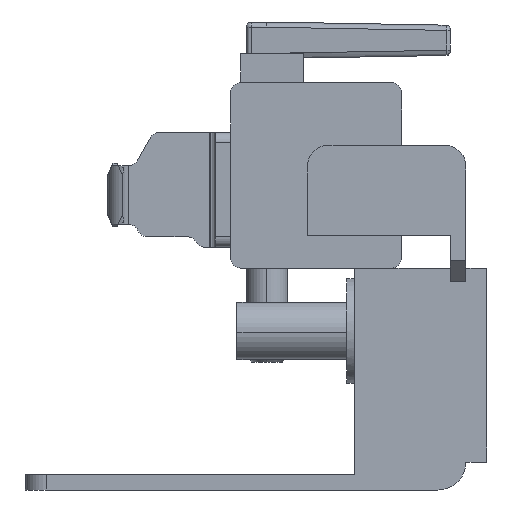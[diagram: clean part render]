
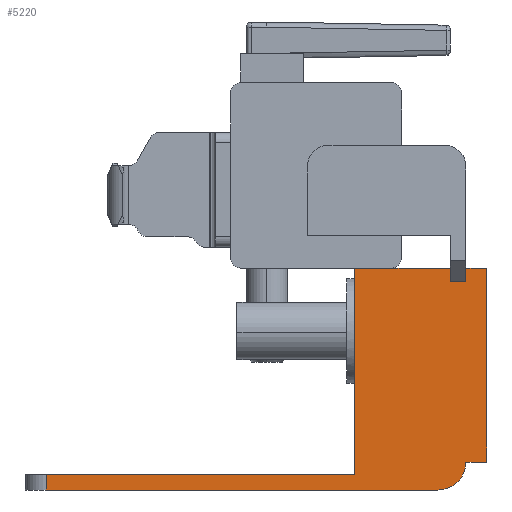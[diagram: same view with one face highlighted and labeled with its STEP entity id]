
A CAD part, left-side view. The second image highlights one B-rep face of the part: STEP entity #5220.
In plain terms, the highlighted planar face has unit normal (-1, 0, 0).
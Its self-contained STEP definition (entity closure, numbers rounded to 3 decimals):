
#61 = DIRECTION ( 'NONE',  ( 0., 0., 1. ) ) ;
#251 = VERTEX_POINT ( 'NONE', #4713 ) ;
#360 = ORIENTED_EDGE ( 'NONE', *, *, #5203, .F. ) ;
#439 = DIRECTION ( 'NONE',  ( 0., 1., 0. ) ) ;
#444 = EDGE_CURVE ( 'NONE', #1513, #1932, #4901, .T. ) ;
#476 = DIRECTION ( 'NONE',  ( 1., 0., 0. ) ) ;
#508 = ORIENTED_EDGE ( 'NONE', *, *, #3993, .T. ) ;
#529 = CARTESIAN_POINT ( 'NONE',  ( -291., -28.333, 40.749 ) ) ;
#570 = EDGE_CURVE ( 'NONE', #4776, #1932, #4447, .T. ) ;
#590 = CARTESIAN_POINT ( 'NONE',  ( -291., -17.713, 40.749 ) ) ;
#592 = CARTESIAN_POINT ( 'NONE',  ( -291., -26.863, 40.749 ) ) ;
#756 = VECTOR ( 'NONE', #815, 1000. ) ;
#815 = DIRECTION ( 'NONE',  ( 0., 0., -1. ) ) ;
#833 = CARTESIAN_POINT ( 'NONE',  ( -291., -17.713, 40.749 ) ) ;
#843 = ORIENTED_EDGE ( 'NONE', *, *, #444, .T. ) ;
#927 = DIRECTION ( 'NONE',  ( 0., 1., 0. ) ) ;
#1007 = EDGE_CURVE ( 'NONE', #2484, #2375, #4440, .T. ) ;
#1064 = EDGE_CURVE ( 'NONE', #4776, #5244, #4034, .T. ) ;
#1153 = ORIENTED_EDGE ( 'NONE', *, *, #1064, .T. ) ;
#1171 = CARTESIAN_POINT ( 'NONE',  ( -291., 14.667, 19.549 ) ) ;
#1182 = FACE_OUTER_BOUND ( 'NONE', #3840, .T. ) ;
#1229 = EDGE_CURVE ( 'NONE', #2517, #251, #4365, .T. ) ;
#1276 = CARTESIAN_POINT ( 'NONE',  ( -291., -29.063, 21.019 ) ) ;
#1328 = VECTOR ( 'NONE', #3940, 1000. ) ;
#1397 = VECTOR ( 'NONE', #4154, 1000. ) ;
#1470 = VERTEX_POINT ( 'NONE', #5085 ) ;
#1513 = VERTEX_POINT ( 'NONE', #3197 ) ;
#1531 = DIRECTION ( 'NONE',  ( 0., 0., 1. ) ) ;
#1550 = VECTOR ( 'NONE', #1713, 1000. ) ;
#1564 = VERTEX_POINT ( 'NONE', #4915 ) ;
#1596 = AXIS2_PLACEMENT_3D ( 'NONE', #2214, #3492, #927 ) ;
#1633 = VECTOR ( 'NONE', #1531, 1000. ) ;
#1713 = DIRECTION ( 'NONE',  ( 0., 1., 0. ) ) ;
#1856 = DIRECTION ( 'NONE',  ( 0., 0., 1. ) ) ;
#1873 = CARTESIAN_POINT ( 'NONE',  ( -291., 11.767, 21.319 ) ) ;
#1932 = VERTEX_POINT ( 'NONE', #592 ) ;
#1942 = EDGE_CURVE ( 'NONE', #2484, #2237, #4559, .T. ) ;
#1976 = CARTESIAN_POINT ( 'NONE',  ( -291., -28.333, 22.219 ) ) ;
#2040 = CARTESIAN_POINT ( 'NONE',  ( -291., -30.333, 22.219 ) ) ;
#2081 = ORIENTED_EDGE ( 'NONE', *, *, #1007, .F. ) ;
#2214 = CARTESIAN_POINT ( 'NONE',  ( -291., -29.063, 23.319 ) ) ;
#2237 = VERTEX_POINT ( 'NONE', #5464 ) ;
#2351 = DIRECTION ( 'NONE',  ( 0., 1., 0. ) ) ;
#2375 = VERTEX_POINT ( 'NONE', #1976 ) ;
#2465 = LINE ( 'NONE', #529, #1328 ) ;
#2484 = VERTEX_POINT ( 'NONE', #2040 ) ;
#2517 = VERTEX_POINT ( 'NONE', #4198 ) ;
#2615 = VECTOR ( 'NONE', #439, 1000. ) ;
#2674 = CARTESIAN_POINT ( 'NONE',  ( -291., -17.713, 21.019 ) ) ;
#2679 = ORIENTED_EDGE ( 'NONE', *, *, #1229, .F. ) ;
#2813 = LINE ( 'NONE', #1276, #1550 ) ;
#2827 = ORIENTED_EDGE ( 'NONE', *, *, #2928, .T. ) ;
#2855 = EDGE_CURVE ( 'NONE', #2237, #1564, #3853, .T. ) ;
#2928 = EDGE_CURVE ( 'NONE', #1564, #1470, #2465, .T. ) ;
#3014 = CARTESIAN_POINT ( 'NONE',  ( -291., -26.863, 39.459 ) ) ;
#3043 = CARTESIAN_POINT ( 'NONE',  ( -291., -25.663, 22.219 ) ) ;
#3146 = EDGE_CURVE ( 'NONE', #2517, #4025, #3535, .T. ) ;
#3197 = CARTESIAN_POINT ( 'NONE',  ( -291., -26.863, 39.459 ) ) ;
#3202 = CARTESIAN_POINT ( 'NONE',  ( -291., -30.333, 22.219 ) ) ;
#3205 = CARTESIAN_POINT ( 'NONE',  ( -291., -30.333, 40.749 ) ) ;
#3306 = VECTOR ( 'NONE', #4046, 1000. ) ;
#3459 = ORIENTED_EDGE ( 'NONE', *, *, #1942, .T. ) ;
#3473 = CIRCLE ( 'NONE', #4273, 2.67 ) ;
#3477 = DIRECTION ( 'NONE',  ( 0., 0., 1. ) ) ;
#3492 = DIRECTION ( 'NONE',  ( 1., 0., 0. ) ) ;
#3535 = LINE ( 'NONE', #1171, #1397 ) ;
#3717 = VECTOR ( 'NONE', #2351, 1000. ) ;
#3724 = LINE ( 'NONE', #3014, #2615 ) ;
#3840 = EDGE_LOOP ( 'NONE', ( #1153, #508, #2679, #4040, #360, #2081, #3459, #4581, #2827, #4043, #843, #4810 ) ) ;
#3853 = LINE ( 'NONE', #3205, #3717 ) ;
#3883 = PLANE ( 'NONE',  #1596 ) ;
#3885 = DIRECTION ( 'NONE',  ( 0., -1., 0. ) ) ;
#3940 = DIRECTION ( 'NONE',  ( 0., 0., -1. ) ) ;
#3993 = EDGE_CURVE ( 'NONE', #5244, #251, #2813, .T. ) ;
#4025 = VERTEX_POINT ( 'NONE', #5120 ) ;
#4034 = LINE ( 'NONE', #833, #756 ) ;
#4040 = ORIENTED_EDGE ( 'NONE', *, *, #3146, .T. ) ;
#4043 = ORIENTED_EDGE ( 'NONE', *, *, #4251, .T. ) ;
#4046 = DIRECTION ( 'NONE',  ( 0., 1., 0. ) ) ;
#4154 = DIRECTION ( 'NONE',  ( 0., -1., 0. ) ) ;
#4198 = CARTESIAN_POINT ( 'NONE',  ( -291., 11.767, 19.549 ) ) ;
#4251 = EDGE_CURVE ( 'NONE', #1470, #1513, #3724, .T. ) ;
#4273 = AXIS2_PLACEMENT_3D ( 'NONE', #3043, #476, #3477 ) ;
#4365 = LINE ( 'NONE', #1873, #5474 ) ;
#4431 = VECTOR ( 'NONE', #61, 1000. ) ;
#4440 = LINE ( 'NONE', #3202, #3306 ) ;
#4447 = LINE ( 'NONE', #4756, #5420 ) ;
#4559 = LINE ( 'NONE', #4621, #4431 ) ;
#4581 = ORIENTED_EDGE ( 'NONE', *, *, #2855, .T. ) ;
#4621 = CARTESIAN_POINT ( 'NONE',  ( -291., -30.333, 22.219 ) ) ;
#4713 = CARTESIAN_POINT ( 'NONE',  ( -291., 11.767, 21.019 ) ) ;
#4756 = CARTESIAN_POINT ( 'NONE',  ( -291., -17.713, 40.749 ) ) ;
#4776 = VERTEX_POINT ( 'NONE', #590 ) ;
#4810 = ORIENTED_EDGE ( 'NONE', *, *, #570, .F. ) ;
#4901 = LINE ( 'NONE', #4935, #1633 ) ;
#4915 = CARTESIAN_POINT ( 'NONE',  ( -291., -28.333, 40.749 ) ) ;
#4935 = CARTESIAN_POINT ( 'NONE',  ( -291., -26.863, 40.749 ) ) ;
#5085 = CARTESIAN_POINT ( 'NONE',  ( -291., -28.333, 39.459 ) ) ;
#5120 = CARTESIAN_POINT ( 'NONE',  ( -291., -25.663, 19.549 ) ) ;
#5203 = EDGE_CURVE ( 'NONE', #2375, #4025, #3473, .T. ) ;
#5220 = ADVANCED_FACE ( 'NONE', ( #1182 ), #3883, .F. ) ;
#5244 = VERTEX_POINT ( 'NONE', #2674 ) ;
#5420 = VECTOR ( 'NONE', #3885, 1000. ) ;
#5464 = CARTESIAN_POINT ( 'NONE',  ( -291., -30.333, 40.749 ) ) ;
#5474 = VECTOR ( 'NONE', #1856, 1000. ) ;
